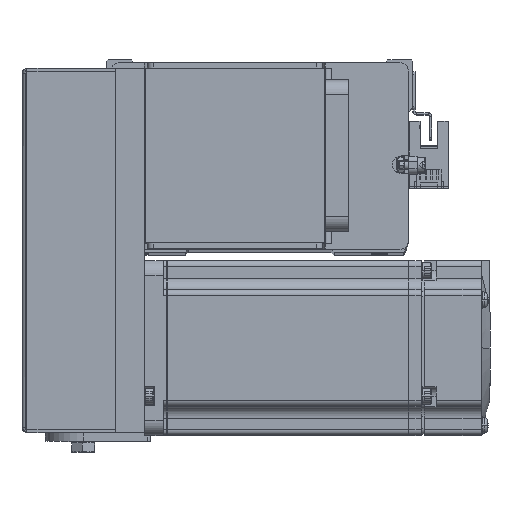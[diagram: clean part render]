
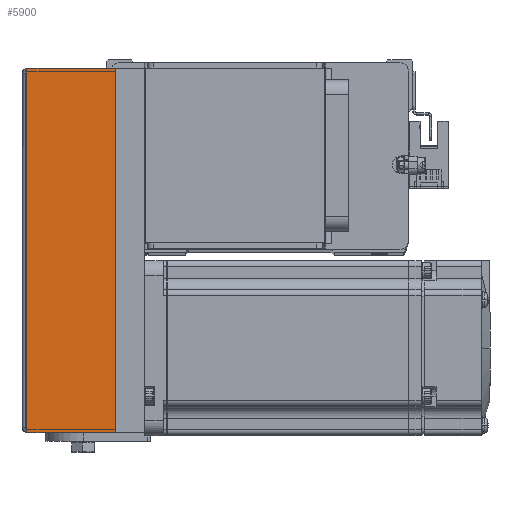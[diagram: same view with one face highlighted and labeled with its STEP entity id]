
A CAD part, top view. The second image highlights one B-rep face of the part: STEP entity #5900.
In plain terms, the highlighted planar face has unit normal (0, 0, 1) as drawn and (0, 0, -1) by its records, which use the part's own axes.
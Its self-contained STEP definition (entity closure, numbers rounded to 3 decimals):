
#605 = EDGE_LOOP ( 'NONE', ( #38415, #31076, #20738, #32969 ) ) ;
#1618 = CARTESIAN_POINT ( 'NONE',  ( -62.5, -30.3, -31. ) ) ;
#4410 = VECTOR ( 'NONE', #39135, 1000. ) ;
#5601 = EDGE_CURVE ( 'NONE', #15235, #43101, #9318, .T. ) ;
#5900 = ADVANCED_FACE ( 'NONE', ( #24835 ), #38132, .F. ) ;
#6676 = LINE ( 'NONE', #46587, #34247 ) ;
#9318 = LINE ( 'NONE', #38660, #4410 ) ;
#9723 = EDGE_CURVE ( 'NONE', #37105, #15235, #30829, .T. ) ;
#12390 = CARTESIAN_POINT ( 'NONE',  ( 0., -30.8, -31. ) ) ;
#15235 = VERTEX_POINT ( 'NONE', #32303 ) ;
#15693 = DIRECTION ( 'NONE',  ( 1., 0., 0. ) ) ;
#19892 = VECTOR ( 'NONE', #15693, 1000. ) ;
#20738 = ORIENTED_EDGE ( 'NONE', *, *, #44188, .T. ) ;
#22802 = LINE ( 'NONE', #1618, #28134 ) ;
#24522 = EDGE_CURVE ( 'NONE', #37105, #26116, #22802, .T. ) ;
#24835 = FACE_OUTER_BOUND ( 'NONE', #605, .T. ) ;
#26116 = VERTEX_POINT ( 'NONE', #28024 ) ;
#26190 = DIRECTION ( 'NONE',  ( 0., 1., 0. ) ) ;
#26748 = AXIS2_PLACEMENT_3D ( 'NONE', #12390, #28417, #35408 ) ;
#28024 = CARTESIAN_POINT ( 'NONE',  ( -62.5, 0., -31. ) ) ;
#28085 = DIRECTION ( 'NONE',  ( 1., 0., 0. ) ) ;
#28134 = VECTOR ( 'NONE', #26190, 1000. ) ;
#28417 = DIRECTION ( 'NONE',  ( 0., 0., 1. ) ) ;
#30829 = LINE ( 'NONE', #38053, #19892 ) ;
#31076 = ORIENTED_EDGE ( 'NONE', *, *, #24522, .T. ) ;
#32303 = CARTESIAN_POINT ( 'NONE',  ( 62.5, -30.3, -31. ) ) ;
#32969 = ORIENTED_EDGE ( 'NONE', *, *, #5601, .F. ) ;
#34247 = VECTOR ( 'NONE', #28085, 1000. ) ;
#35408 = DIRECTION ( 'NONE',  ( 0., 1., 0. ) ) ;
#37105 = VERTEX_POINT ( 'NONE', #38813 ) ;
#38053 = CARTESIAN_POINT ( 'NONE',  ( 62.5, -30.3, -31. ) ) ;
#38132 = PLANE ( 'NONE',  #26748 ) ;
#38415 = ORIENTED_EDGE ( 'NONE', *, *, #9723, .F. ) ;
#38660 = CARTESIAN_POINT ( 'NONE',  ( 62.5, -30.3, -31. ) ) ;
#38813 = CARTESIAN_POINT ( 'NONE',  ( -62.5, -30.3, -31. ) ) ;
#39135 = DIRECTION ( 'NONE',  ( 0., 1., 0. ) ) ;
#43101 = VERTEX_POINT ( 'NONE', #43631 ) ;
#43631 = CARTESIAN_POINT ( 'NONE',  ( 62.5, 0., -31. ) ) ;
#44188 = EDGE_CURVE ( 'NONE', #26116, #43101, #6676, .T. ) ;
#46587 = CARTESIAN_POINT ( 'NONE',  ( 0., 0., -31. ) ) ;
